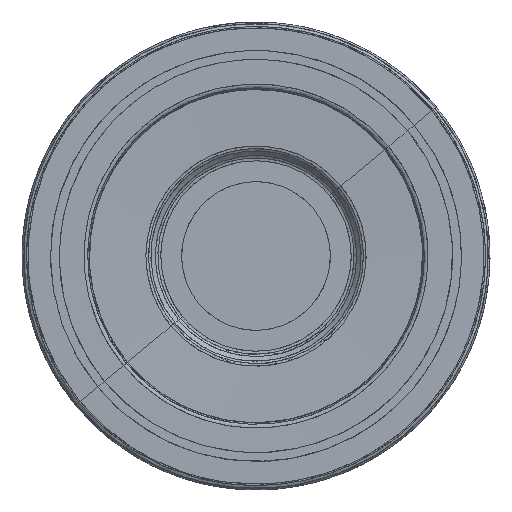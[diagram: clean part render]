
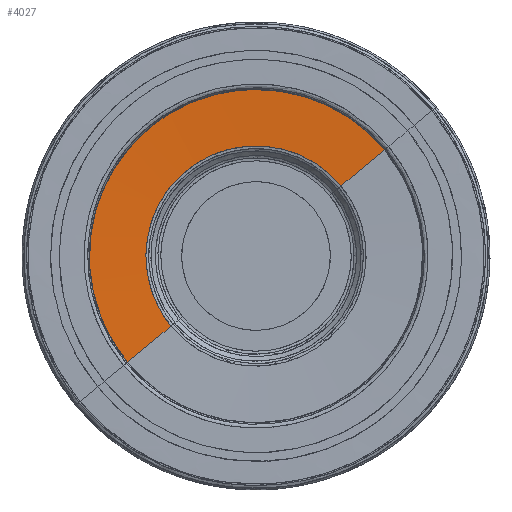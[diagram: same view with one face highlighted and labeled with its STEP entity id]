
A CAD part, front view. The second image highlights one B-rep face of the part: STEP entity #4027.
In plain terms, the highlighted face is a revolution surface.
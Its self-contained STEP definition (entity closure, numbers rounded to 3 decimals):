
#4027 = ADVANCED_FACE('',(#4028),#4053,.T.);
#4028 = FACE_BOUND('',#4029,.T.);
#4029 = EDGE_LOOP('',(#4030,#4067,#4085,#4109));
#4030 = ORIENTED_EDGE('',*,*,#4031,.T.);
#4031 = EDGE_CURVE('',#4032,#4034,#4036,.T.);
#4032 = VERTEX_POINT('',#4033);
#4033 = CARTESIAN_POINT('',(-17.295,0.682,
    -14.288));
#4034 = VERTEX_POINT('',#4035);
#4035 = CARTESIAN_POINT('',(17.295,0.682,
    14.288));
#4036 = SURFACE_CURVE('',#4037,(#4052),.PCURVE_S1.);
#4037 = B_SPLINE_CURVE_WITH_KNOTS('',13,(#4038,#4039,#4040,#4041,#4042,
    #4043,#4044,#4045,#4046,#4047,#4048,#4049,#4050,#4051),
  .UNSPECIFIED.,.F.,.F.,(14,14),(0.,1.),.PIECEWISE_BEZIER_KNOTS.);
#4038 = CARTESIAN_POINT('',(-17.295,0.682,
    -14.288));
#4039 = CARTESIAN_POINT('',(-19.596,0.683,
    -11.501));
#4040 = CARTESIAN_POINT('',(-21.988,0.683,
    -7.617));
#4041 = CARTESIAN_POINT('',(-23.888,0.683,
    -2.525));
#4042 = CARTESIAN_POINT('',(-24.594,0.684,3.716
    ));
#4043 = CARTESIAN_POINT('',(-23.327,0.684,
    10.658));
#4044 = CARTESIAN_POINT('',(-19.625,0.684,
    17.399));
#4045 = CARTESIAN_POINT('',(-13.383,0.684,
    22.556));
#4046 = CARTESIAN_POINT('',(-6.065,0.684,
    24.919));
#4047 = CARTESIAN_POINT('',(0.992,0.684,24.854
    ));
#4048 = CARTESIAN_POINT('',(6.988,0.683,
    22.982));
#4049 = CARTESIAN_POINT('',(11.629,0.683,
    20.155));
#4050 = CARTESIAN_POINT('',(14.993,0.683,
    17.074));
#4051 = CARTESIAN_POINT('',(17.295,0.682,
    14.288));
#4052 = PCURVE('',#4053,#4060);
#4053 = SURFACE_OF_REVOLUTION('',#4054,#4057);
#4054 = B_SPLINE_CURVE_WITH_KNOTS('',1,(#4055,#4056),.UNSPECIFIED.,.F.,
  .F.,(2,2),(0.,13.341),.PIECEWISE_BEZIER_KNOTS.);
#4055 = CARTESIAN_POINT('',(7.618,1.048,-9.222
    ));
#4056 = CARTESIAN_POINT('',(16.11,0.581,
    -19.5));
#4057 = AXIS1_PLACEMENT('',#4058,#4059);
#4058 = CARTESIAN_POINT('',(0.,0.948,
    0.));
#4059 = DIRECTION('',(0.,-1.,
    0.));
#4060 = DEFINITIONAL_REPRESENTATION('',(#4061),#4066);
#4061 = B_SPLINE_CURVE_WITH_KNOTS('',3,(#4062,#4063,#4064,#4065),
  .UNSPECIFIED.,.F.,.F.,(4,4),(0.,1.),.PIECEWISE_BEZIER_KNOTS.);
#4062 = CARTESIAN_POINT('',(4.712,10.478));
#4063 = CARTESIAN_POINT('',(4.014,10.478));
#4064 = CARTESIAN_POINT('',(2.269,10.478));
#4065 = CARTESIAN_POINT('',(1.571,10.478));
#4066 = ( GEOMETRIC_REPRESENTATION_CONTEXT(2) 
PARAMETRIC_REPRESENTATION_CONTEXT() REPRESENTATION_CONTEXT('2D SPACE',''
  ) );
#4067 = ORIENTED_EDGE('',*,*,#4068,.T.);
#4068 = EDGE_CURVE('',#4034,#4069,#4071,.T.);
#4069 = VERTEX_POINT('',#4070);
#4070 = CARTESIAN_POINT('',(11.427,0.948,
    9.44));
#4071 = SURFACE_CURVE('',#4072,(#4077),.PCURVE_S1.);
#4072 = B_SPLINE_CURVE_WITH_KNOTS('',3,(#4073,#4074,#4075,#4076),
  .UNSPECIFIED.,.F.,.F.,(4,4),(0.,1.),.PIECEWISE_BEZIER_KNOTS.);
#4073 = CARTESIAN_POINT('',(17.295,0.682,
    14.288));
#4074 = CARTESIAN_POINT('',(15.433,0.767,
    12.75));
#4075 = CARTESIAN_POINT('',(13.289,0.864,
    10.978));
#4076 = CARTESIAN_POINT('',(11.427,0.948,
    9.44));
#4077 = PCURVE('',#4053,#4078);
#4078 = DEFINITIONAL_REPRESENTATION('',(#4079),#4084);
#4079 = B_SPLINE_CURVE_WITH_KNOTS('',3,(#4080,#4081,#4082,#4083),
  .UNSPECIFIED.,.F.,.F.,(4,4),(0.,1.),.PIECEWISE_BEZIER_KNOTS.);
#4080 = CARTESIAN_POINT('',(1.571,10.478));
#4081 = CARTESIAN_POINT('',(1.571,8.062));
#4082 = CARTESIAN_POINT('',(1.571,5.279));
#4083 = CARTESIAN_POINT('',(1.571,2.863));
#4084 = ( GEOMETRIC_REPRESENTATION_CONTEXT(2) 
PARAMETRIC_REPRESENTATION_CONTEXT() REPRESENTATION_CONTEXT('2D SPACE',''
  ) );
#4085 = ORIENTED_EDGE('',*,*,#4086,.T.);
#4086 = EDGE_CURVE('',#4069,#4087,#4089,.T.);
#4087 = VERTEX_POINT('',#4088);
#4088 = CARTESIAN_POINT('',(-11.427,0.948,-9.44)
  );
#4089 = SURFACE_CURVE('',#4090,(#4101),.PCURVE_S1.);
#4090 = B_SPLINE_CURVE_WITH_KNOTS('',9,(#4091,#4092,#4093,#4094,#4095,
    #4096,#4097,#4098,#4099,#4100),.UNSPECIFIED.,.F.,.F.,(10,10),(0.,1.)
  ,.PIECEWISE_BEZIER_KNOTS.);
#4091 = CARTESIAN_POINT('',(11.427,0.948,
    9.44));
#4092 = CARTESIAN_POINT('',(8.132,0.949,
    13.429));
#4093 = CARTESIAN_POINT('',(3.27,0.949,
    16.124));
#4094 = CARTESIAN_POINT('',(-2.577,0.949,
    16.822));
#4095 = CARTESIAN_POINT('',(-8.462,0.95,
    15.124));
#4096 = CARTESIAN_POINT('',(-13.256,0.95,
    11.164));
#4097 = CARTESIAN_POINT('',(-16.033,0.949,
    5.705));
#4098 = CARTESIAN_POINT('',(-16.452,0.949,
    -0.169));
#4099 = CARTESIAN_POINT('',(-14.723,0.949,
    -5.452));
#4100 = CARTESIAN_POINT('',(-11.427,0.948,-9.44)
  );
#4101 = PCURVE('',#4053,#4102);
#4102 = DEFINITIONAL_REPRESENTATION('',(#4103),#4108);
#4103 = B_SPLINE_CURVE_WITH_KNOTS('',3,(#4104,#4105,#4106,#4107),
  .UNSPECIFIED.,.F.,.F.,(4,4),(0.,1.),.PIECEWISE_BEZIER_KNOTS.);
#4104 = CARTESIAN_POINT('',(1.571,2.863));
#4105 = CARTESIAN_POINT('',(2.618,2.863));
#4106 = CARTESIAN_POINT('',(3.665,2.863));
#4107 = CARTESIAN_POINT('',(4.712,2.863));
#4108 = ( GEOMETRIC_REPRESENTATION_CONTEXT(2) 
PARAMETRIC_REPRESENTATION_CONTEXT() REPRESENTATION_CONTEXT('2D SPACE',''
  ) );
#4109 = ORIENTED_EDGE('',*,*,#4110,.T.);
#4110 = EDGE_CURVE('',#4087,#4032,#4111,.T.);
#4111 = SURFACE_CURVE('',#4112,(#4117),.PCURVE_S1.);
#4112 = B_SPLINE_CURVE_WITH_KNOTS('',3,(#4113,#4114,#4115,#4116),
  .UNSPECIFIED.,.F.,.F.,(4,4),(0.,1.),.PIECEWISE_BEZIER_KNOTS.);
#4113 = CARTESIAN_POINT('',(-11.427,0.948,-9.44)
  );
#4114 = CARTESIAN_POINT('',(-13.294,0.864,
    -10.982));
#4115 = CARTESIAN_POINT('',(-15.428,0.767,
    -12.746));
#4116 = CARTESIAN_POINT('',(-17.295,0.682,
    -14.288));
#4117 = PCURVE('',#4053,#4118);
#4118 = DEFINITIONAL_REPRESENTATION('',(#4119),#4124);
#4119 = B_SPLINE_CURVE_WITH_KNOTS('',3,(#4120,#4121,#4122,#4123),
  .UNSPECIFIED.,.F.,.F.,(4,4),(0.,1.),.PIECEWISE_BEZIER_KNOTS.);
#4120 = CARTESIAN_POINT('',(4.712,2.863));
#4121 = CARTESIAN_POINT('',(4.712,5.285));
#4122 = CARTESIAN_POINT('',(4.712,8.055));
#4123 = CARTESIAN_POINT('',(4.712,10.478));
#4124 = ( GEOMETRIC_REPRESENTATION_CONTEXT(2) 
PARAMETRIC_REPRESENTATION_CONTEXT() REPRESENTATION_CONTEXT('2D SPACE',''
  ) );
